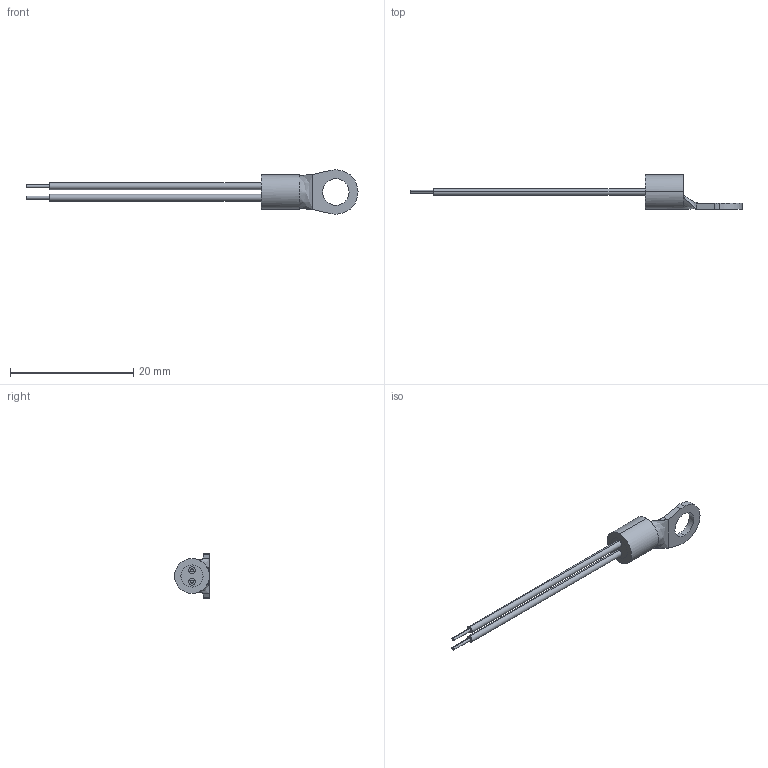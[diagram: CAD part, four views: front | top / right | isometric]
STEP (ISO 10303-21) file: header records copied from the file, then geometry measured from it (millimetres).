
FILE_DESCRIPTION (( 'STEP AP214' ), '1' );
FILE_NAME ('NTCALUG91A STP.STEP', '2018-12-19T09:47:28', ( '' ), ( '' ), 'SwSTEP 2.0', 'SolidWorks 2018', '' );
FILE_SCHEMA (( 'AUTOMOTIVE_DESIGN' ));
Length unit declared in the file: millimetre
Products named in the file (1): NTCALUG91A STP
Bounding box: 53.8 x 5.6 x 7.2 mm (x, y, z)
Volume: 261 mm3; surface area: 667.3 mm2
Topology: 4 solids, 4 shells, 41 faces, 96 edges, 62 vertices
Faces by surface type: cylinder 19, plane 14, bspline 8
Entity records: 1801 total; most frequent: CARTESIAN_POINT 718, ORIENTED_EDGE 188, DIRECTION 168, EDGE_CURVE 94, AXIS2_PLACEMENT_3D 70, VERTEX_POINT 62, EDGE_LOOP 46, FACE_OUTER_BOUND 41
